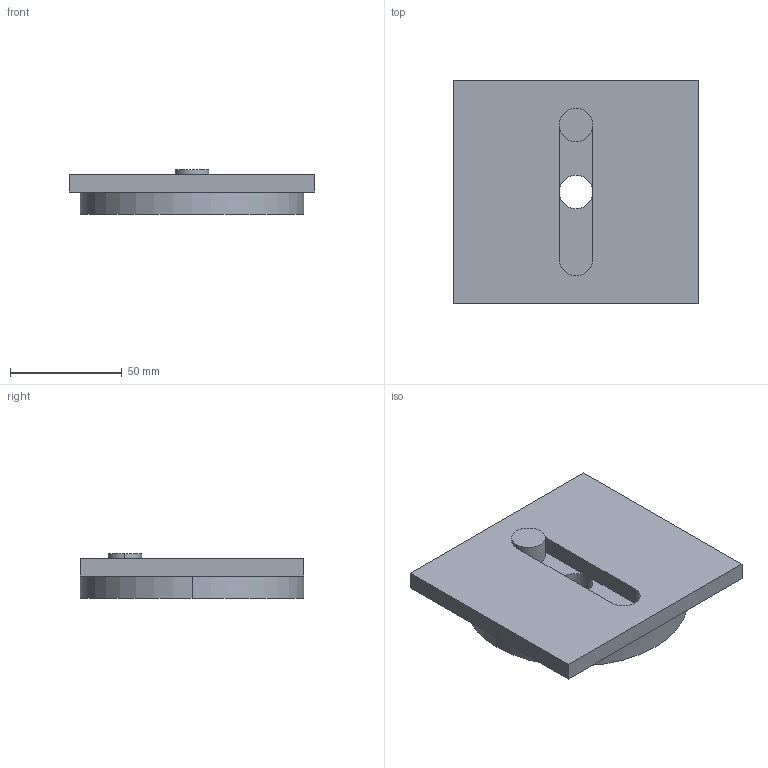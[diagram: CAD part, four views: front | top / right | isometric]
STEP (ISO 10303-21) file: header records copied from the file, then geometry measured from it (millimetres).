
FILE_DESCRIPTION (( 'STEP AP214' ), '1' );
FILE_NAME ('Ej09-v01.STEP', '2012-02-01T16:34:25', ( '' ), ( '' ), 'SwSTEP 2.0', 'SolidWorks 2011', '' );
FILE_SCHEMA (( 'AUTOMOTIVE_DESIGN' ));
Length unit declared in the file: millimetre
Products named in the file (3): Ej09-bloque_v01; Ej09-v01; Ej09-rueda_Predeterminado
Assembly tree (2 placements, depth 2):
  Ej09-v01
    Ej09-bloque_v01
    Ej09-rueda_Predeterminado
Bounding box: 110 x 100 x 20 mm (x, y, z)
Volume: 157926.1 mm3; surface area: 43982.2 mm2
Topology: 2 solids, 2 shells, 19 faces, 42 edges, 28 vertices
Faces by surface type: plane 11, cylinder 8
Entity records: 650 total; most frequent: DIRECTION 106, CARTESIAN_POINT 94, ORIENTED_EDGE 84, EDGE_CURVE 42, AXIS2_PLACEMENT_3D 40, VERTEX_POINT 28, VECTOR 26, LINE 26
